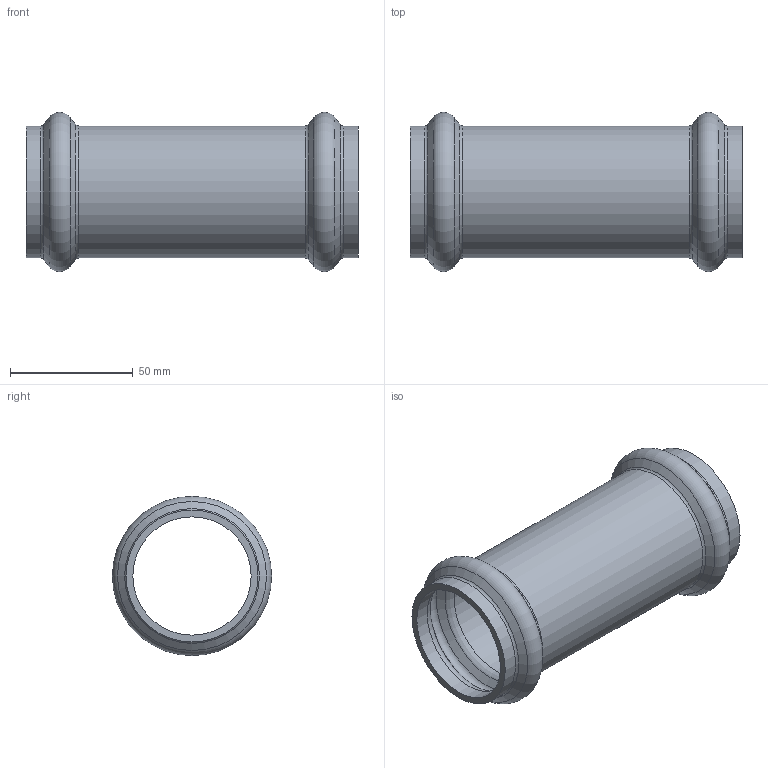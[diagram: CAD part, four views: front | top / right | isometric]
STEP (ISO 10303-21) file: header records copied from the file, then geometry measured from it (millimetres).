
FILE_DESCRIPTION(/* description */ ('VIC COUPLING STYLE P508 SLIP (P X P)','CAx-IF Rec.Pracs.---Representation and Presentation of Product Manufacturing Information (PMI)---4.0---2014-10-13'),/* implementation_level */ '2;1');
FILE_NAME(/* name */ 'C:\Users\kkamble\AppData\Roaming\Autodesk\ApplicationPlugins\Back Up\Victaulic_SS-Vic-Press-TP 316_Coupling Slip_Style P508 (VP)\Victaulic_SS-Vic-Press-TP 316_Coupling Slip_Style P508 (VP)_1.5 (40).stp',/* time_stamp */ '2020-08-14T11:54:28+05:00',/* author */ ('cgray'),/* organization */ ('Victaulic'),/* preprocessor_version */ 'ST-DEVELOPER v17.2',/* originating_system */ 'Autodesk Inventor 2019',/* authorisation */ '');
FILE_SCHEMA (('AP242_MANAGED_MODEL_BASED_3D_ENGINEERING_MIM_LF { 1 0 10303 442 1 1 4 }'));
Length unit declared in the file: inch
Products named in the file (1): P508-01.5
Bounding box: 135.38 x 64.94 x 64.94 mm (x, y, z)
Volume: 66115.9 mm3; surface area: 48648.9 mm2
Topology: 1 solids, 1 shells, 28 faces, 106 edges, 80 vertices
Faces by surface type: torus 12, cone 8, cylinder 6, plane 2
Full cylindrical faces by diameter (mm): 48.26 x3, 53.797 x3
Entity records: 1390 total; most frequent: DIRECTION 282, CARTESIAN_POINT 232, ORIENTED_EDGE 212, AXIS2_PLACEMENT_3D 134, EDGE_CURVE 106, CIRCLE 92, VERTEX_POINT 80, EDGE_LOOP 30
